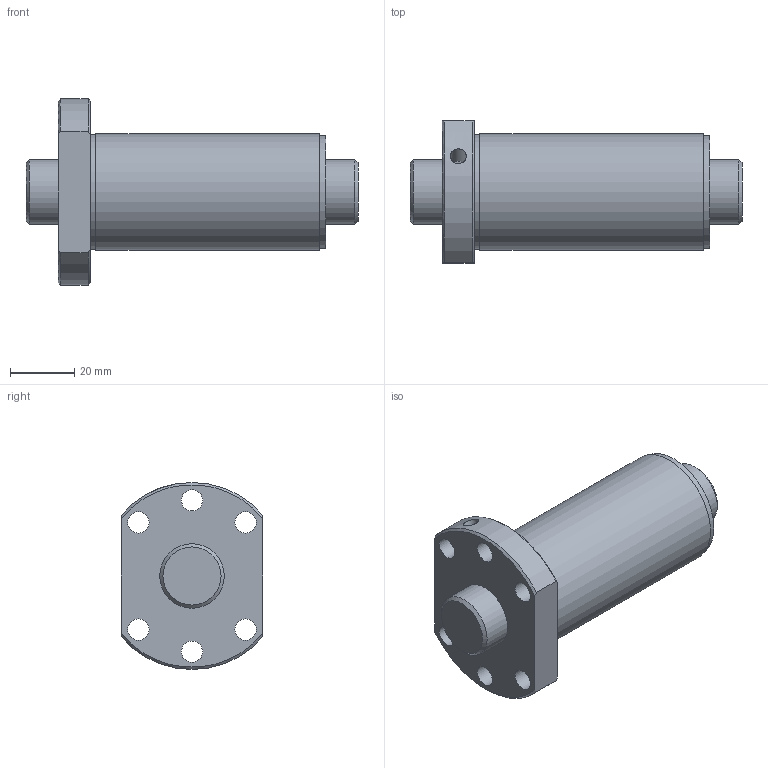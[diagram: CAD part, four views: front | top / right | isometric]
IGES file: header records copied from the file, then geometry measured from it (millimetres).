
Start section: Data from Parasolid IGES Translator 26.0.171, Copyright(c) 2006 Siemens PLM Software. All Rights Reserved.
Global section: file name: SDA2040V-2G0+103LC0(0G000).igs; native system: By Siemens PLM Incorporated; preprocessor: XPlus GENERIC/IGES 26.0.171; author: Noname; organization: Noname; date: 20240528.113022; units: millimetre
Bounding box: 103 x 44 x 58 mm (x, y, z)
Surface area: 27205.2 mm2 (no closed solid volume)
Topology: 0 solids, 0 shells, 31 faces, 142 edges, 122 vertices
Faces by surface type: revolution 22, extrusion 9
